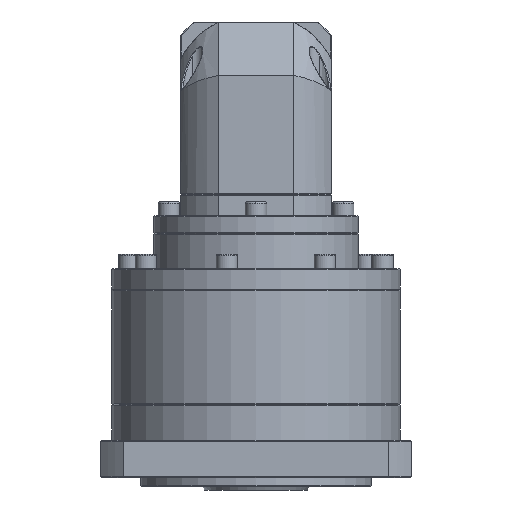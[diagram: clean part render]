
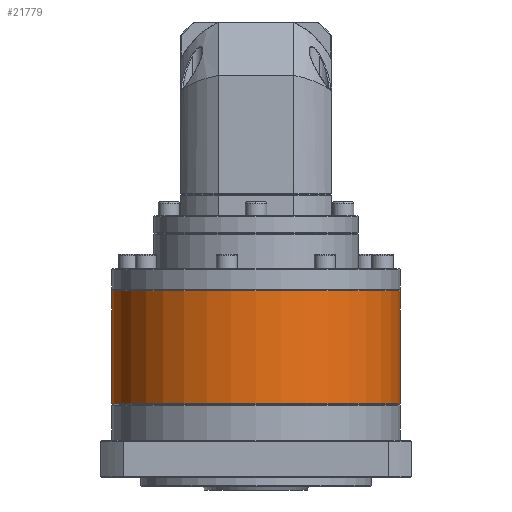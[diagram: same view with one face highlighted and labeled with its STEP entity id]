
A CAD part, front view. The second image highlights one B-rep face of the part: STEP entity #21779.
In plain terms, the highlighted cylindrical face has radius 81 mm (diameter 162 mm), a partial arc.
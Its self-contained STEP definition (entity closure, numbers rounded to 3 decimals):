
#13 = CIRCLE ( 'NONE', #85007, 81. ) ;
#152 = DIRECTION ( 'NONE',  ( 0., 0., -1. ) ) ;
#1186 = DIRECTION ( 'NONE',  ( -1., 0., 0. ) ) ;
#4272 = AXIS2_PLACEMENT_3D ( 'NONE', #35160, #57868, #124035 ) ;
#8703 = ORIENTED_EDGE ( 'NONE', *, *, #134235, .T. ) ;
#13656 = CARTESIAN_POINT ( 'NONE',  ( -145.879, 4.314, -129.439 ) ) ;
#15408 = VERTEX_POINT ( 'NONE', #114105 ) ;
#15972 = CARTESIAN_POINT ( 'NONE',  ( -64.879, 85.314, -128.939 ) ) ;
#17961 = EDGE_CURVE ( 'NONE', #15408, #25038, #20358, .T. ) ;
#20358 = CIRCLE ( 'NONE', #75163, 81. ) ;
#21100 = DIRECTION ( 'NONE',  ( 0., 0., -1. ) ) ;
#21779 = ADVANCED_FACE ( 'NONE', ( #84489 ), #34343, .T. ) ;
#21930 = DIRECTION ( 'NONE',  ( -1., 0., 0. ) ) ;
#23342 = CARTESIAN_POINT ( 'NONE',  ( -145.879, 85.314, -129.439 ) ) ;
#24242 = ORIENTED_EDGE ( 'NONE', *, *, #43630, .T. ) ;
#25038 = VERTEX_POINT ( 'NONE', #13656 ) ;
#30175 = CARTESIAN_POINT ( 'NONE',  ( -226.879, 85.314, -192.939 ) ) ;
#32089 = CARTESIAN_POINT ( 'NONE',  ( -145.879, 85.314, -128.939 ) ) ;
#32713 = CARTESIAN_POINT ( 'NONE',  ( -226.879, 85.314, -129.439 ) ) ;
#34343 = CYLINDRICAL_SURFACE ( 'NONE', #95200, 81. ) ;
#35160 = CARTESIAN_POINT ( 'NONE',  ( -145.879, 85.314, -192.939 ) ) ;
#43630 = EDGE_CURVE ( 'NONE', #76492, #82029, #120331, .T. ) ;
#47436 = EDGE_LOOP ( 'NONE', ( #94843, #80236, #105337, #8703, #24242 ) ) ;
#52640 = LINE ( 'NONE', #15972, #59529 ) ;
#57868 = DIRECTION ( 'NONE',  ( 0., 0., 1. ) ) ;
#59529 = VECTOR ( 'NONE', #93137, 1000. ) ;
#68178 = CARTESIAN_POINT ( 'NONE',  ( -226.879, 85.314, -128.939 ) ) ;
#72067 = VECTOR ( 'NONE', #101518, 1000. ) ;
#75163 = AXIS2_PLACEMENT_3D ( 'NONE', #87174, #21100, #87654 ) ;
#76492 = VERTEX_POINT ( 'NONE', #30175 ) ;
#79931 = VERTEX_POINT ( 'NONE', #32713 ) ;
#80236 = ORIENTED_EDGE ( 'NONE', *, *, #17961, .T. ) ;
#82029 = VERTEX_POINT ( 'NONE', #118669 ) ;
#84489 = FACE_OUTER_BOUND ( 'NONE', #47436, .T. ) ;
#85007 = AXIS2_PLACEMENT_3D ( 'NONE', #23342, #152, #21930 ) ;
#87174 = CARTESIAN_POINT ( 'NONE',  ( -145.879, 85.314, -129.439 ) ) ;
#87654 = DIRECTION ( 'NONE',  ( -1., 0., 0. ) ) ;
#93137 = DIRECTION ( 'NONE',  ( 0., 0., -1. ) ) ;
#94843 = ORIENTED_EDGE ( 'NONE', *, *, #141840, .F. ) ;
#95200 = AXIS2_PLACEMENT_3D ( 'NONE', #32089, #120962, #1186 ) ;
#101518 = DIRECTION ( 'NONE',  ( 0., 0., -1. ) ) ;
#105337 = ORIENTED_EDGE ( 'NONE', *, *, #109885, .T. ) ;
#108439 = LINE ( 'NONE', #68178, #72067 ) ;
#109885 = EDGE_CURVE ( 'NONE', #25038, #79931, #13, .T. ) ;
#114105 = CARTESIAN_POINT ( 'NONE',  ( -64.879, 85.314, -129.439 ) ) ;
#118669 = CARTESIAN_POINT ( 'NONE',  ( -64.879, 85.314, -192.939 ) ) ;
#120331 = CIRCLE ( 'NONE', #4272, 81. ) ;
#120962 = DIRECTION ( 'NONE',  ( 0., 0., -1. ) ) ;
#124035 = DIRECTION ( 'NONE',  ( -1., 0., 0. ) ) ;
#134235 = EDGE_CURVE ( 'NONE', #79931, #76492, #108439, .T. ) ;
#141840 = EDGE_CURVE ( 'NONE', #15408, #82029, #52640, .T. ) ;
